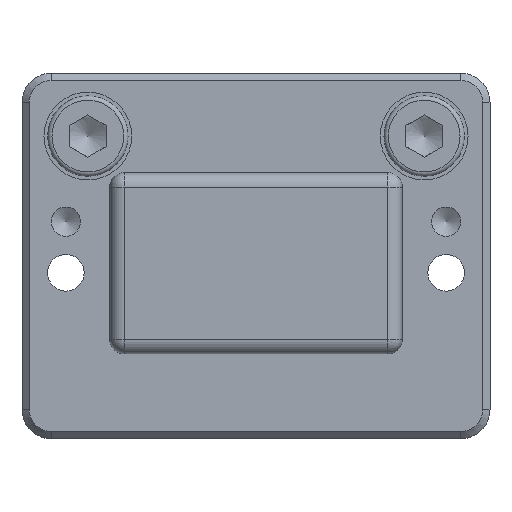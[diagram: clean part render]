
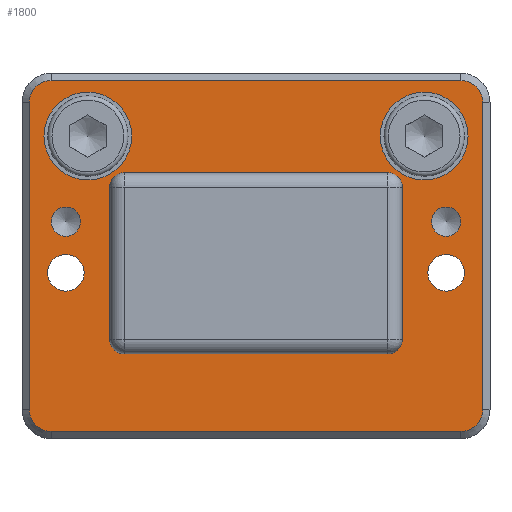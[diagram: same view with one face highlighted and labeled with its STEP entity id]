
A CAD part, front view. The second image highlights one B-rep face of the part: STEP entity #1800.
In plain terms, the highlighted planar face has unit normal (0, -1, 0).
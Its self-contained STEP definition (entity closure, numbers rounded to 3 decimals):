
#39=FACE_BOUND('',#299,.T.);
#40=FACE_BOUND('',#300,.T.);
#41=FACE_BOUND('',#301,.T.);
#42=FACE_BOUND('',#302,.T.);
#43=FACE_BOUND('',#303,.T.);
#44=FACE_BOUND('',#304,.T.);
#45=FACE_BOUND('',#305,.T.);
#83=PLANE('',#1983);
#183=FACE_OUTER_BOUND('',#298,.T.);
#298=EDGE_LOOP('',(#1352,#1353,#1354,#1355,#1356,#1357,#1358,#1359));
#299=EDGE_LOOP('',(#1360));
#300=EDGE_LOOP('',(#1361));
#301=EDGE_LOOP('',(#1362));
#302=EDGE_LOOP('',(#1363));
#303=EDGE_LOOP('',(#1364,#1365,#1366,#1367,#1368,#1369,#1370,#1371));
#304=EDGE_LOOP('',(#1372));
#305=EDGE_LOOP('',(#1373));
#414=LINE('',#2845,#554);
#416=LINE('',#2854,#556);
#420=LINE('',#2866,#560);
#426=LINE('',#2881,#566);
#438=LINE('',#2922,#578);
#439=LINE('',#2926,#579);
#440=LINE('',#2930,#580);
#441=LINE('',#2934,#581);
#554=VECTOR('',#2280,10.);
#556=VECTOR('',#2290,10.);
#560=VECTOR('',#2302,10.);
#566=VECTOR('',#2316,10.);
#578=VECTOR('',#2356,10.);
#579=VECTOR('',#2359,10.);
#580=VECTOR('',#2362,10.);
#581=VECTOR('',#2365,10.);
#689=CIRCLE('',#1964,1.5);
#691=CIRCLE('',#1968,1.5);
#693=CIRCLE('',#1972,1.5);
#695=CIRCLE('',#1976,1.5);
#698=CIRCLE('',#1984,3.);
#699=CIRCLE('',#1985,1.25);
#700=CIRCLE('',#1986,1.25);
#701=CIRCLE('',#1987,3.);
#702=CIRCLE('',#1988,1.);
#703=CIRCLE('',#1989,1.);
#704=CIRCLE('',#1990,1.);
#705=CIRCLE('',#1991,1.);
#706=CIRCLE('',#1992,1.);
#707=CIRCLE('',#1993,1.);
#799=VERTEX_POINT('',#2838);
#802=VERTEX_POINT('',#2843);
#803=VERTEX_POINT('',#2847);
#805=VERTEX_POINT('',#2853);
#807=VERTEX_POINT('',#2859);
#809=VERTEX_POINT('',#2865);
#811=VERTEX_POINT('',#2871);
#813=VERTEX_POINT('',#2877);
#824=VERTEX_POINT('',#2912);
#825=VERTEX_POINT('',#2914);
#826=VERTEX_POINT('',#2916);
#827=VERTEX_POINT('',#2918);
#828=VERTEX_POINT('',#2920);
#829=VERTEX_POINT('',#2921);
#830=VERTEX_POINT('',#2923);
#831=VERTEX_POINT('',#2925);
#832=VERTEX_POINT('',#2927);
#833=VERTEX_POINT('',#2929);
#834=VERTEX_POINT('',#2931);
#835=VERTEX_POINT('',#2933);
#836=VERTEX_POINT('',#2936);
#837=VERTEX_POINT('',#2938);
#980=EDGE_CURVE('',#802,#799,#414,.T.);
#983=EDGE_CURVE('',#799,#803,#689,.T.);
#984=EDGE_CURVE('',#803,#805,#416,.T.);
#989=EDGE_CURVE('',#805,#807,#691,.T.);
#990=EDGE_CURVE('',#807,#809,#420,.T.);
#995=EDGE_CURVE('',#809,#811,#693,.T.);
#998=EDGE_CURVE('',#811,#813,#426,.T.);
#1000=EDGE_CURVE('',#813,#802,#695,.T.);
#1014=EDGE_CURVE('',#824,#824,#698,.T.);
#1015=EDGE_CURVE('',#825,#825,#699,.T.);
#1016=EDGE_CURVE('',#826,#826,#700,.T.);
#1017=EDGE_CURVE('',#827,#827,#701,.T.);
#1018=EDGE_CURVE('',#828,#829,#438,.T.);
#1019=EDGE_CURVE('',#829,#830,#702,.T.);
#1020=EDGE_CURVE('',#831,#830,#439,.T.);
#1021=EDGE_CURVE('',#832,#831,#703,.F.);
#1022=EDGE_CURVE('',#833,#832,#440,.T.);
#1023=EDGE_CURVE('',#834,#833,#704,.F.);
#1024=EDGE_CURVE('',#834,#835,#441,.T.);
#1025=EDGE_CURVE('',#828,#835,#705,.F.);
#1026=EDGE_CURVE('',#836,#836,#706,.T.);
#1027=EDGE_CURVE('',#837,#837,#707,.T.);
#1352=ORIENTED_EDGE('',*,*,#980,.F.);
#1353=ORIENTED_EDGE('',*,*,#1000,.F.);
#1354=ORIENTED_EDGE('',*,*,#998,.F.);
#1355=ORIENTED_EDGE('',*,*,#995,.F.);
#1356=ORIENTED_EDGE('',*,*,#990,.F.);
#1357=ORIENTED_EDGE('',*,*,#989,.F.);
#1358=ORIENTED_EDGE('',*,*,#984,.F.);
#1359=ORIENTED_EDGE('',*,*,#983,.F.);
#1360=ORIENTED_EDGE('',*,*,#1014,.T.);
#1361=ORIENTED_EDGE('',*,*,#1015,.T.);
#1362=ORIENTED_EDGE('',*,*,#1016,.T.);
#1363=ORIENTED_EDGE('',*,*,#1017,.T.);
#1364=ORIENTED_EDGE('',*,*,#1018,.T.);
#1365=ORIENTED_EDGE('',*,*,#1019,.T.);
#1366=ORIENTED_EDGE('',*,*,#1020,.F.);
#1367=ORIENTED_EDGE('',*,*,#1021,.F.);
#1368=ORIENTED_EDGE('',*,*,#1022,.F.);
#1369=ORIENTED_EDGE('',*,*,#1023,.F.);
#1370=ORIENTED_EDGE('',*,*,#1024,.T.);
#1371=ORIENTED_EDGE('',*,*,#1025,.F.);
#1372=ORIENTED_EDGE('',*,*,#1026,.T.);
#1373=ORIENTED_EDGE('',*,*,#1027,.T.);
#1800=ADVANCED_FACE('',(#183,#39,#40,#41,#42,#43,#44,#45),#83,.T.);
#1964=AXIS2_PLACEMENT_3D('',#2851,#2286,#2287);
#1968=AXIS2_PLACEMENT_3D('',#2863,#2298,#2299);
#1972=AXIS2_PLACEMENT_3D('',#2875,#2310,#2311);
#1976=AXIS2_PLACEMENT_3D('',#2884,#2321,#2322);
#1983=AXIS2_PLACEMENT_3D('',#2911,#2346,#2347);
#1984=AXIS2_PLACEMENT_3D('',#2913,#2348,#2349);
#1985=AXIS2_PLACEMENT_3D('',#2915,#2350,#2351);
#1986=AXIS2_PLACEMENT_3D('',#2917,#2352,#2353);
#1987=AXIS2_PLACEMENT_3D('',#2919,#2354,#2355);
#1988=AXIS2_PLACEMENT_3D('',#2924,#2357,#2358);
#1989=AXIS2_PLACEMENT_3D('',#2928,#2360,#2361);
#1990=AXIS2_PLACEMENT_3D('',#2932,#2363,#2364);
#1991=AXIS2_PLACEMENT_3D('',#2935,#2366,#2367);
#1992=AXIS2_PLACEMENT_3D('',#2937,#2368,#2369);
#1993=AXIS2_PLACEMENT_3D('',#2939,#2370,#2371);
#2280=DIRECTION('',(1.,0.,0.));
#2286=DIRECTION('center_axis',(0.,1.,0.));
#2287=DIRECTION('ref_axis',(0.707,0.,0.707));
#2290=DIRECTION('',(0.,0.,-1.));
#2298=DIRECTION('center_axis',(0.,1.,0.));
#2299=DIRECTION('ref_axis',(0.707,0.,-0.707));
#2302=DIRECTION('',(-1.,0.,0.));
#2310=DIRECTION('center_axis',(0.,1.,0.));
#2311=DIRECTION('ref_axis',(-0.707,0.,-0.707));
#2316=DIRECTION('',(0.,0.,1.));
#2321=DIRECTION('center_axis',(0.,1.,0.));
#2322=DIRECTION('ref_axis',(-0.707,0.,0.707));
#2346=DIRECTION('center_axis',(0.,-1.,0.));
#2347=DIRECTION('ref_axis',(1.,0.,0.));
#2348=DIRECTION('center_axis',(0.,1.,0.));
#2349=DIRECTION('ref_axis',(1.,0.,0.));
#2350=DIRECTION('center_axis',(0.,1.,0.));
#2351=DIRECTION('ref_axis',(1.,0.,0.));
#2352=DIRECTION('center_axis',(0.,1.,0.));
#2353=DIRECTION('ref_axis',(1.,0.,0.));
#2354=DIRECTION('center_axis',(0.,1.,0.));
#2355=DIRECTION('ref_axis',(1.,0.,0.));
#2356=DIRECTION('',(1.,0.,0.));
#2357=DIRECTION('center_axis',(0.,1.,0.));
#2358=DIRECTION('ref_axis',(0.707,0.,0.707));
#2359=DIRECTION('',(0.,0.,1.));
#2360=DIRECTION('center_axis',(0.,1.,0.));
#2361=DIRECTION('ref_axis',(0.707,0.,-0.707));
#2362=DIRECTION('',(1.,0.,0.));
#2363=DIRECTION('center_axis',(0.,1.,0.));
#2364=DIRECTION('ref_axis',(-0.707,0.,-0.707));
#2365=DIRECTION('',(0.,0.,1.));
#2366=DIRECTION('center_axis',(0.,1.,0.));
#2367=DIRECTION('ref_axis',(-0.707,0.,0.707));
#2368=DIRECTION('center_axis',(0.,1.,0.));
#2369=DIRECTION('ref_axis',(1.,0.,0.));
#2370=DIRECTION('center_axis',(0.,1.,0.));
#2371=DIRECTION('ref_axis',(1.,0.,0.));
#2838=CARTESIAN_POINT('',(14.,-4.2,24.5));
#2843=CARTESIAN_POINT('',(-14.,-4.2,24.5));
#2845=CARTESIAN_POINT('',(-8.,-4.2,24.5));
#2847=CARTESIAN_POINT('',(15.5,-4.2,23.));
#2851=CARTESIAN_POINT('Origin',(14.,-4.2,23.));
#2853=CARTESIAN_POINT('',(15.5,-4.2,2.));
#2854=CARTESIAN_POINT('',(15.5,-4.2,0.));
#2859=CARTESIAN_POINT('',(14.,-4.2,0.5));
#2863=CARTESIAN_POINT('Origin',(14.,-4.2,2.));
#2865=CARTESIAN_POINT('',(-14.,-4.2,0.5));
#2866=CARTESIAN_POINT('',(-8.,-4.2,0.5));
#2871=CARTESIAN_POINT('',(-15.5,-4.2,2.));
#2875=CARTESIAN_POINT('Origin',(-14.,-4.2,2.));
#2877=CARTESIAN_POINT('',(-15.5,-4.2,23.));
#2881=CARTESIAN_POINT('',(-15.5,-4.2,0.));
#2884=CARTESIAN_POINT('Origin',(-14.,-4.2,23.));
#2911=CARTESIAN_POINT('Origin',(-16.,-4.2,0.));
#2912=CARTESIAN_POINT('',(-14.5,-4.2,20.7));
#2913=CARTESIAN_POINT('Origin',(-11.5,-4.2,20.7));
#2914=CARTESIAN_POINT('',(-14.25,-4.2,11.35));
#2915=CARTESIAN_POINT('Origin',(-13.,-4.2,11.35));
#2916=CARTESIAN_POINT('',(11.75,-4.2,11.35));
#2917=CARTESIAN_POINT('Origin',(13.,-4.2,11.35));
#2918=CARTESIAN_POINT('',(8.5,-4.2,20.7));
#2919=CARTESIAN_POINT('Origin',(11.5,-4.2,20.7));
#2920=CARTESIAN_POINT('',(-9.,-4.2,18.2));
#2921=CARTESIAN_POINT('',(9.,-4.2,18.2));
#2922=CARTESIAN_POINT('',(-10.,-4.2,18.2));
#2923=CARTESIAN_POINT('',(10.,-4.2,17.2));
#2924=CARTESIAN_POINT('Origin',(9.,-4.2,17.2));
#2925=CARTESIAN_POINT('',(10.,-4.2,6.8));
#2926=CARTESIAN_POINT('',(10.,-4.2,0.));
#2927=CARTESIAN_POINT('',(9.,-4.2,5.8));
#2928=CARTESIAN_POINT('Origin',(9.,-4.2,6.8));
#2929=CARTESIAN_POINT('',(-9.,-4.2,5.8));
#2930=CARTESIAN_POINT('',(-10.,-4.2,5.8));
#2931=CARTESIAN_POINT('',(-10.,-4.2,6.8));
#2932=CARTESIAN_POINT('Origin',(-9.,-4.2,6.8));
#2933=CARTESIAN_POINT('',(-10.,-4.2,17.2));
#2934=CARTESIAN_POINT('',(-10.,-4.2,0.));
#2935=CARTESIAN_POINT('Origin',(-9.,-4.2,17.2));
#2936=CARTESIAN_POINT('',(-14.,-4.2,14.85));
#2937=CARTESIAN_POINT('Origin',(-13.,-4.2,14.85));
#2938=CARTESIAN_POINT('',(12.,-4.2,14.85));
#2939=CARTESIAN_POINT('Origin',(13.,-4.2,14.85));
